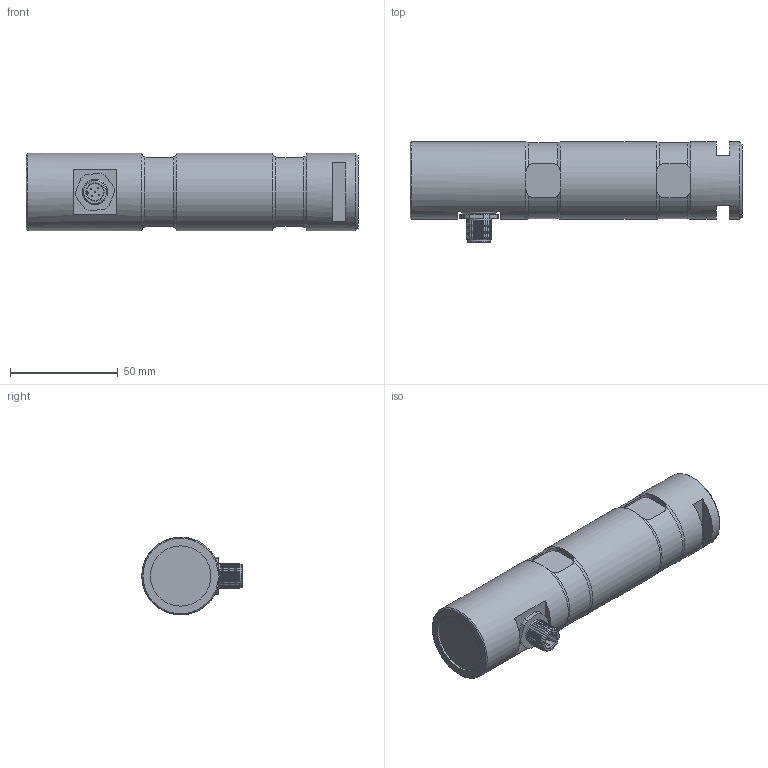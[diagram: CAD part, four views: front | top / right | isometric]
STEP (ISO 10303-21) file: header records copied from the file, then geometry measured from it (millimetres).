
FILE_DESCRIPTION(/* description */ ('Alibre Inc.'),/* implementation_level */ '2;1');
FILE_NAME(/* name */ 'export-950F98F8-426E-4B62-96A2-08FA42444743',/* time_stamp */ '2020-01-30T10:35:59+01:00',/* author */ (''),/* organization */ (''),/* preprocessor_version */ 'ST-DEVELOPER v17',/* originating_system */ 'Alibre',/* authorisation */ '');
FILE_SCHEMA (('CONFIG_CONTROL_DESIGN'));
Length unit declared in the file: centimetre
Bounding box: 154 x 46.5 x 36 mm (x, y, z)
Surface area: 174397.6 mm2
Topology: 7 solids, 8 shells, 227 faces, 493 edges, 291 vertices
Faces by surface type: cylinder 76, cone 71, plane 70, torus 10
Full cylindrical faces by diameter (mm): 0.5 x10, 8 x2, 10 x1, 11 x1, 11.5 x1, 12 x21, 13 x2, 14.5 x1, 28 x1, 36 x3
Entity records: 5467 total; most frequent: CARTESIAN_POINT 1222, ORIENTED_EDGE 778, DIRECTION 697, EDGE_CURVE 383, EDGE_LOOP 343, FACE_BOUND 343, AXIS2_PLACEMENT_3D 326, VERTEX_POINT 276
